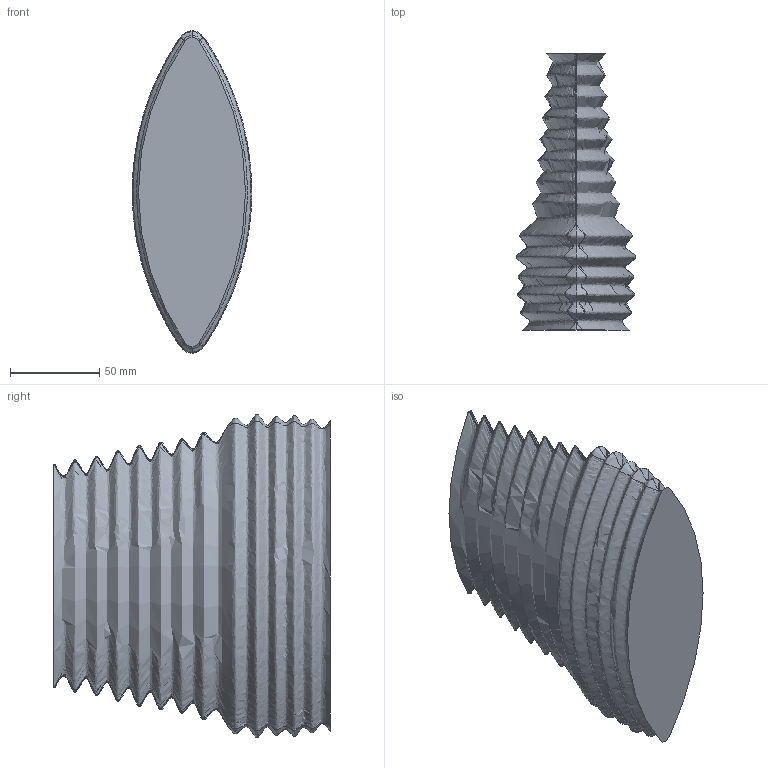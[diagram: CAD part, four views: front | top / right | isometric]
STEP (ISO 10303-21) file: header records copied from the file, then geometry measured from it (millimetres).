
FILE_DESCRIPTION(/* description */ (''),/* implementation_level */ '2;1');
FILE_NAME(/* name */ 'Small bronze vase.stp',/* time_stamp */ '2025-01-14T16:20:48+10:30',/* author */ ('Haris Dezain'),/* organization */ (''),/* preprocessor_version */ 'ST-DEVELOPER v20',/* originating_system */ 'Autodesk Inventor 2025',/* authorisation */ '');
FILE_SCHEMA (('AUTOMOTIVE_DESIGN { 1 0 10303 214 3 1 1 }'));
Length unit declared in the file: millimetre
Products named in the file (1): Small bronze vase
Bounding box: 67 x 155 x 180.98 mm (x, y, z)
Volume: 360991.3 mm3; surface area: 116606.3 mm2
Topology: 1 solids, 1 shells, 15 faces, 36 edges, 22 vertices
Faces by surface type: bspline 6, plane 3, torus 2, cone 2, sphere 2
Entity records: 3669 total; most frequent: CARTESIAN_POINT 3324, ORIENTED_EDGE 68, DIRECTION 52, EDGE_CURVE 34, AXIS2_PLACEMENT_3D 26, VERTEX_POINT 22, B_SPLINE_CURVE_WITH_KNOTS 18, EDGE_LOOP 16
